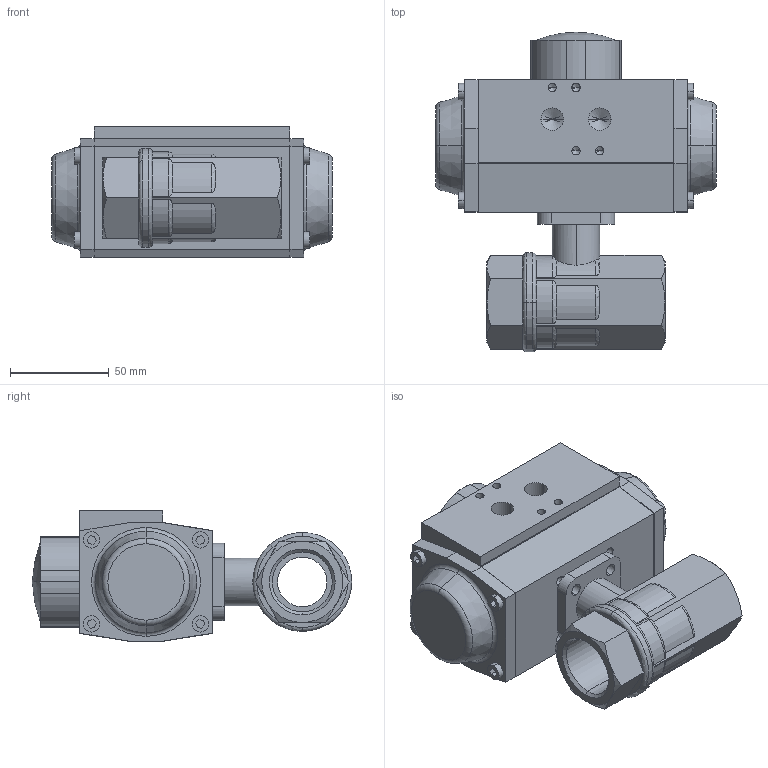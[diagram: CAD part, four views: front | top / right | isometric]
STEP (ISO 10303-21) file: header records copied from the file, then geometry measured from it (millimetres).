
FILE_DESCRIPTION (( 'STEP AP214' ), '1' );
FILE_NAME ('A25-DN25-G1+AP1.step', '2011-03-03T09:47:19', ( '' ), ( '' ), 'SwSTEP 2.0', 'SolidWorks 2011', '' );
FILE_SCHEMA (( 'AUTOMOTIVE_DESIGN' ));
Length unit declared in the file: millimetre
Products named in the file (3): AP1_Default<As Machined>; Ballvalve A25-DN25 G1; A25-DN25-G1+AP1
Assembly tree (2 placements, depth 2):
  A25-DN25-G1+AP1
    Ballvalve A25-DN25 G1
    AP1_Default<As Machined>
Bounding box: 142 x 161.49 x 66 mm (x, y, z)
Volume: 667908.6 mm3; surface area: 88080.7 mm2
Topology: 5 solids, 5 shells, 333 faces, 821 edges, 507 vertices
Faces by surface type: plane 150, cylinder 99, cone 56, torus 26, sphere 2
Entity records: 11185 total; most frequent: CARTESIAN_POINT 2332, DIRECTION 1637, ORIENTED_EDGE 1570, EDGE_CURVE 785, AXIS2_PLACEMENT_3D 593, VERTEX_POINT 507, LINE 451, VECTOR 451
